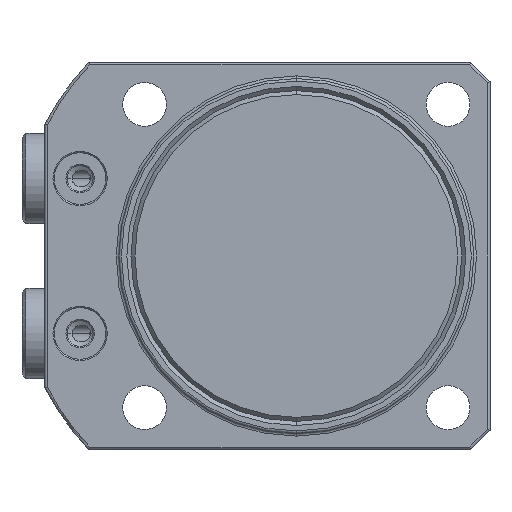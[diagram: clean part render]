
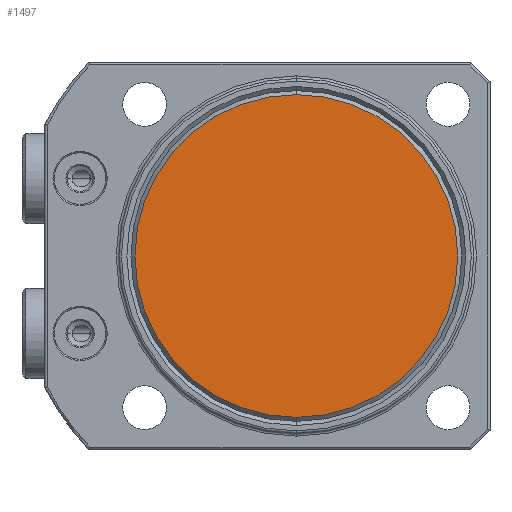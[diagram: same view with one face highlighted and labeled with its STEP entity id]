
A CAD part, front view. The second image highlights one B-rep face of the part: STEP entity #1497.
In plain terms, the highlighted planar face has unit normal (0, -1, 0) as drawn and (1, 0, 0) by its records, which use the part's own axes.
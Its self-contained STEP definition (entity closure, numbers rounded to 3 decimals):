
#801=PLANE('',#4496);
#1497=ADVANCED_FACE('',(#1709),#801,.T.);
#1709=FACE_OUTER_BOUND('',#1915,.T.);
#1915=EDGE_LOOP('',(#2711,#2712));
#2711=ORIENTED_EDGE('',*,*,#3729,.F.);
#2712=ORIENTED_EDGE('',*,*,#3846,.F.);
#3322=VERTEX_POINT('',#6613);
#3323=VERTEX_POINT('',#6614);
#3729=EDGE_CURVE('',#3322,#3323,#4103,.T.);
#3846=EDGE_CURVE('',#3323,#3322,#4147,.T.);
#4103=CIRCLE('',#4423,25.);
#4147=CIRCLE('',#4495,25.);
#4423=AXIS2_PLACEMENT_3D('',#6612,#5173,#5174);
#4495=AXIS2_PLACEMENT_3D('',#7089,#5369,#5370);
#4496=AXIS2_PLACEMENT_3D('',#7090,#5371,#5372);
#5173=DIRECTION('',(-1.,0.,0.));
#5174=DIRECTION('',(0.,0.,1.));
#5369=DIRECTION('',(-1.,0.,0.));
#5370=DIRECTION('',(0.,0.,1.));
#5371=DIRECTION('',(1.,0.,0.));
#5372=DIRECTION('',(0.,0.,1.));
#6612=CARTESIAN_POINT('',(89.,0.,0.));
#6613=CARTESIAN_POINT('',(89.,0.,25.));
#6614=CARTESIAN_POINT('',(89.,0.,-25.));
#7089=CARTESIAN_POINT('',(89.,0.,0.));
#7090=CARTESIAN_POINT('',(89.,0.,0.));
